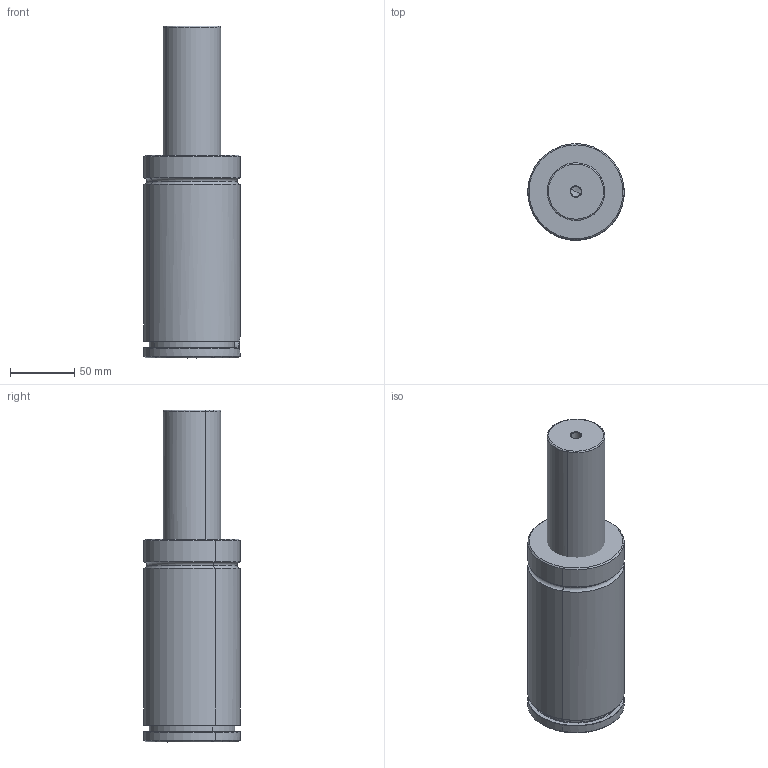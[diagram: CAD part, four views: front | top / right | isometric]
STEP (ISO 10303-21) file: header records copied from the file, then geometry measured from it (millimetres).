
FILE_DESCRIPTION(('CATIA V5 STEP Exchange'),'2;1');
FILE_NAME('W:\CATALOGO GENERAL 2018\FICHEROS CAD\001-MICRO\MICRO 75CF\MICRO 75CFx100.stp','2017-10-27T08:23:26+00:00',('none'),('none'),'CATIA Version 5 Release 17 (IN-10)','CATIA V5 STEP AP203','none');
FILE_SCHEMA(('CONFIG_CONTROL_DESIGN'));
Length unit declared in the file: millimetre
Products named in the file (1): MICRO 75CFx100
Assembly tree (3 placements, depth 2):
  MICRO 75CFx100
    #56
    #1318
    #3518
Bounding box: 75.19 x 75.18 x 259 mm (x, y, z)
Volume: 838644.8 mm3; surface area: 89775.6 mm2
Topology: 3 solids, 3 shells, 189 faces, 408 edges, 228 vertices
Faces by surface type: torus 67, cone 60, cylinder 39, plane 23
Entity records: 5761 total; most frequent: CARTESIAN_POINT 1862, ORIENTED_EDGE 796, DIRECTION 697, EDGE_CURVE 398, AXIS2_PLACEMENT_3D 395, VERTEX_POINT 228, CIRCLE 207, EDGE_LOOP 202
